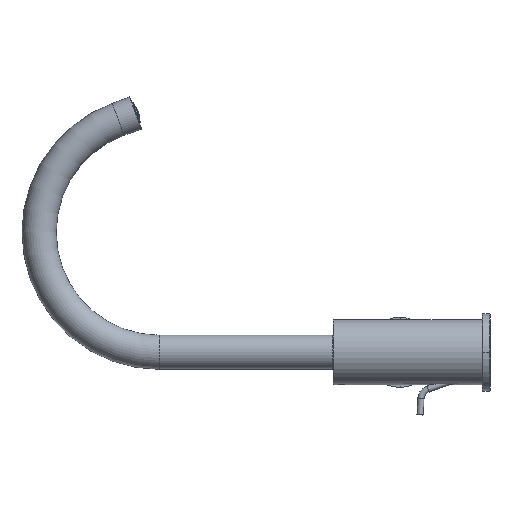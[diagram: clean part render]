
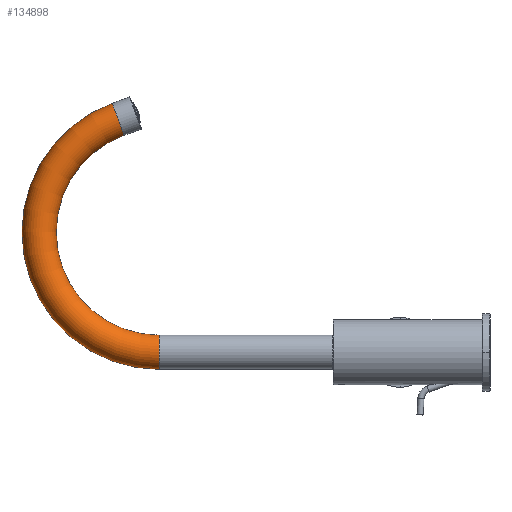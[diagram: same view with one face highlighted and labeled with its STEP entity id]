
A CAD part, left-side view. The second image highlights one B-rep face of the part: STEP entity #134898.
In plain terms, the highlighted toroidal (fillet/blend) face has major radius 77.278 mm and minor radius 11 mm.
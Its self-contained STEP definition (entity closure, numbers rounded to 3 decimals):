
#47003=CARTESIAN_POINT('',(0.,234.276,149.896));
#47004=DIRECTION('',(0.,-0.94,0.342));
#47005=DIRECTION('',(0.,0.342,0.94));
#47006=AXIS2_PLACEMENT_3D('',#47003,#47004,#47005);
#47031=CARTESIAN_POINT('',(0.,207.846,77.278));
#47032=DIRECTION('',(1.,0.,0.));
#47033=DIRECTION('',(0.,0.,-1.));
#47034=AXIS2_PLACEMENT_3D('',#47031,#47032,#47033);
#72734=CARTESIAN_POINT('',(0.,207.846,0.));
#72735=DIRECTION('',(0.,1.,0.));
#72736=DIRECTION('',(0.,0.,-1.));
#72737=AXIS2_PLACEMENT_3D('',#72734,#72735,#72736);
#72739=CARTESIAN_POINT('',(0.,207.846,77.278));
#72740=DIRECTION('',(1.,0.,0.));
#72741=DIRECTION('',(0.,0.,-1.));
#72742=AXIS2_PLACEMENT_3D('',#72739,#72740,#72741);
#93843=CARTESIAN_POINT('',(0.,207.846,-11.));
#93844=CARTESIAN_POINT('',(0.,207.846,11.));
#93845=VERTEX_POINT('',#93843);
#93846=VERTEX_POINT('',#93844);
#93851=CARTESIAN_POINT('',(0.,238.039,160.232));
#93852=CARTESIAN_POINT('',(0.,230.514,139.559));
#93853=VERTEX_POINT('',#93851);
#93854=VERTEX_POINT('',#93852);
#134887=CARTESIAN_POINT('',(0.,207.846,77.278));
#134888=DIRECTION('',(1.,0.,0.));
#134889=DIRECTION('',(0.,0.,1.));
#134890=AXIS2_PLACEMENT_3D('',#134887,#134888,#134889);
#134891=TOROIDAL_SURFACE('',#134890,77.278,11.);
#134892=ORIENTED_EDGE('',*,*,#134881,.F.);
#134893=ORIENTED_EDGE('',*,*,#105065,.T.);
#134894=ORIENTED_EDGE('',*,*,#105035,.T.);
#134895=ORIENTED_EDGE('',*,*,#105062,.F.);
#134896=EDGE_LOOP('',(#134892,#134893,#134894,#134895));
#134897=FACE_OUTER_BOUND('',#134896,.F.);
#134898=ADVANCED_FACE('',(#134897),#134891,.T.);
#47007=CIRCLE('',#47006,11.);
#47035=CIRCLE('',#47034,66.278);
#72738=CIRCLE('',#72737,11.);
#72743=CIRCLE('',#72742,88.278);
#105035=EDGE_CURVE('',#93853,#93854,#47007,.T.);
#105062=EDGE_CURVE('',#93846,#93854,#47035,.T.);
#105065=EDGE_CURVE('',#93845,#93853,#72743,.T.);
#134881=EDGE_CURVE('',#93845,#93846,#72738,.T.);
